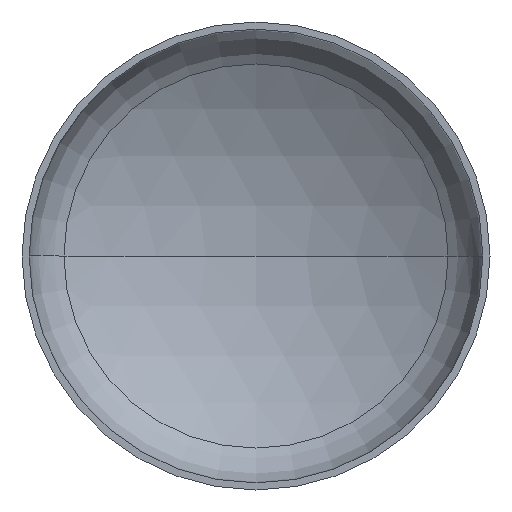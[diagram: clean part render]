
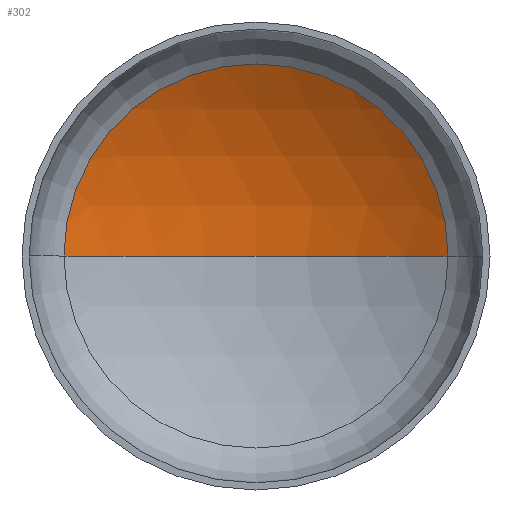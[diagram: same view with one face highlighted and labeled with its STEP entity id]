
A CAD part, front view. The second image highlights one B-rep face of the part: STEP entity #302.
In plain terms, the highlighted spherical face has radius 1520 mm.
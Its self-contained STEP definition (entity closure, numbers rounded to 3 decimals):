
#2 = AXIS2_PLACEMENT_3D ( 'NONE', #323, #184, #386 ) ;
#11 = ORIENTED_EDGE ( 'NONE', *, *, #352, .T. ) ;
#22 = EDGE_LOOP ( 'NONE', ( #115, #63, #11 ) ) ;
#24 = VERTEX_POINT ( 'NONE', #261 ) ;
#25 = AXIS2_PLACEMENT_3D ( 'NONE', #218, #379, #173 ) ;
#57 = AXIS2_PLACEMENT_3D ( 'NONE', #217, #220, #264 ) ;
#63 = ORIENTED_EDGE ( 'NONE', *, *, #392, .T. ) ;
#65 = VERTEX_POINT ( 'NONE', #257 ) ;
#115 = ORIENTED_EDGE ( 'NONE', *, *, #382, .F. ) ;
#117 = VERTEX_POINT ( 'NONE', #307 ) ;
#146 = SPHERICAL_SURFACE ( 'NONE', #57, 1520. ) ;
#173 = DIRECTION ( 'NONE',  ( 1., 0., 0. ) ) ;
#180 = DIRECTION ( 'NONE',  ( 0., 0., -1. ) ) ;
#184 = DIRECTION ( 'NONE',  ( 0., 0., 1. ) ) ;
#217 = CARTESIAN_POINT ( 'NONE',  ( 0., -965.812, 0. ) ) ;
#218 = CARTESIAN_POINT ( 'NONE',  ( 0., 338.931, 0. ) ) ;
#220 = DIRECTION ( 'NONE',  ( 0., 0., -1. ) ) ;
#222 = AXIS2_PLACEMENT_3D ( 'NONE', #320, #180, #342 ) ;
#257 = CARTESIAN_POINT ( 'NONE',  ( -779.772, 338.931, 0. ) ) ;
#261 = CARTESIAN_POINT ( 'NONE',  ( 779.772, 338.931, 0. ) ) ;
#264 = DIRECTION ( 'NONE',  ( -1., 0., 0. ) ) ;
#282 = CIRCLE ( 'NONE', #2, 1520. ) ;
#292 = FACE_OUTER_BOUND ( 'NONE', #22, .T. ) ;
#302 = ADVANCED_FACE ( 'NONE', ( #292 ), #146, .F. ) ;
#307 = CARTESIAN_POINT ( 'NONE',  ( 0., 554.188, 0. ) ) ;
#320 = CARTESIAN_POINT ( 'NONE',  ( 0., -965.812, 0. ) ) ;
#323 = CARTESIAN_POINT ( 'NONE',  ( 0., -965.812, 0. ) ) ;
#342 = DIRECTION ( 'NONE',  ( -1., 0., 0. ) ) ;
#352 = EDGE_CURVE ( 'NONE', #24, #65, #360, .T. ) ;
#360 = CIRCLE ( 'NONE', #25, 779.772 ) ;
#379 = DIRECTION ( 'NONE',  ( 0., -1., 0. ) ) ;
#382 = EDGE_CURVE ( 'NONE', #117, #65, #282, .T. ) ;
#386 = DIRECTION ( 'NONE',  ( 1., 0., 0. ) ) ;
#392 = EDGE_CURVE ( 'NONE', #117, #24, #393, .T. ) ;
#393 = CIRCLE ( 'NONE', #222, 1520. ) ;
